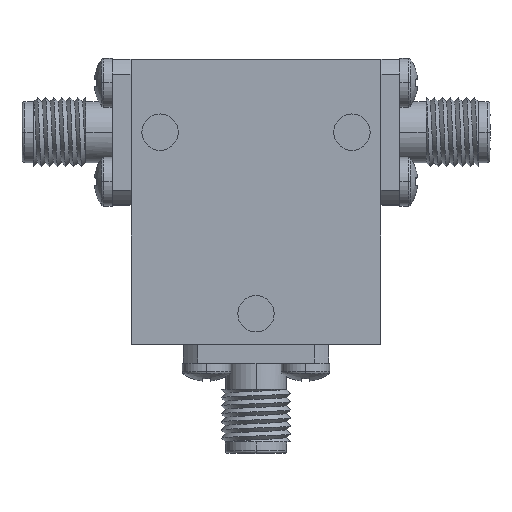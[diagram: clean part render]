
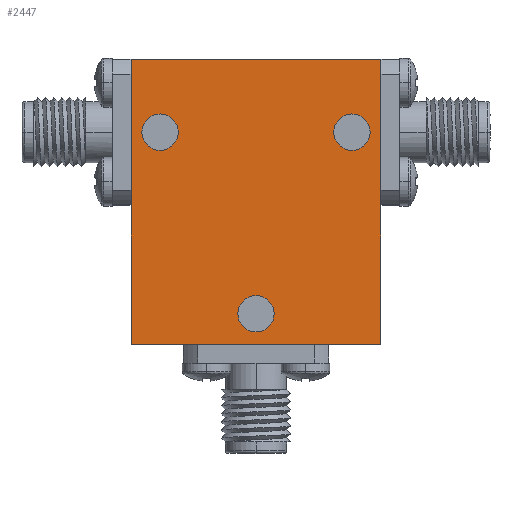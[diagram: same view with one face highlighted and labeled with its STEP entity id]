
A CAD part, top view. The second image highlights one B-rep face of the part: STEP entity #2447.
In plain terms, the highlighted planar face has unit normal (0, 0, 1).
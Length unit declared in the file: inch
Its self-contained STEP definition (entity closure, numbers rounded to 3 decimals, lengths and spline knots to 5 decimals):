
#35 = EDGE_CURVE ( 'NONE', #85, #42, #1385, .T. ) ;
#42 = VERTEX_POINT ( 'NONE', #937 ) ;
#85 = VERTEX_POINT ( 'NONE', #3014 ) ;
#129 = PLANE ( 'NONE',  #3713 ) ;
#284 = EDGE_CURVE ( 'NONE', #1965, #4113, #3239, .T. ) ;
#306 = CARTESIAN_POINT ( 'NONE',  ( -0.33, 0.24, 0.25 ) ) ;
#384 = VERTEX_POINT ( 'NONE', #3981 ) ;
#403 = ORIENTED_EDGE ( 'NONE', *, *, #1080, .T. ) ;
#461 = CARTESIAN_POINT ( 'NONE',  ( -0.43, -0.49, 0.25 ) ) ;
#498 = EDGE_LOOP ( 'NONE', ( #1277, #1806 ) ) ;
#516 = FACE_BOUND ( 'NONE', #605, .T. ) ;
#551 = ORIENTED_EDGE ( 'NONE', *, *, #2665, .T. ) ;
#602 = DIRECTION ( 'NONE',  ( 1., 0., 0. ) ) ;
#605 = EDGE_LOOP ( 'NONE', ( #2039, #1210 ) ) ;
#621 = CIRCLE ( 'NONE', #1975, 0.0625 ) ;
#643 = EDGE_CURVE ( 'NONE', #42, #85, #621, .T. ) ;
#662 = VERTEX_POINT ( 'NONE', #1240 ) ;
#705 = CARTESIAN_POINT ( 'NONE',  ( 0.43, 0.49, 0.25 ) ) ;
#766 = FACE_BOUND ( 'NONE', #2362, .T. ) ;
#768 = VECTOR ( 'NONE', #2016, 39.37008 ) ;
#781 = CARTESIAN_POINT ( 'NONE',  ( -0.43, 0.49, 0.25 ) ) ;
#826 = DIRECTION ( 'NONE',  ( 0., -1., 0. ) ) ;
#870 = CIRCLE ( 'NONE', #1844, 0.0625 ) ;
#937 = CARTESIAN_POINT ( 'NONE',  ( -0.0625, -0.385, 0.25 ) ) ;
#942 = DIRECTION ( 'NONE',  ( 1., 0., 0. ) ) ;
#1080 = EDGE_CURVE ( 'NONE', #4113, #1183, #2255, .T. ) ;
#1110 = DIRECTION ( 'NONE',  ( 1., 0., 0. ) ) ;
#1154 = CARTESIAN_POINT ( 'NONE',  ( 0.3925, 0.24, 0.25 ) ) ;
#1183 = VERTEX_POINT ( 'NONE', #2586 ) ;
#1210 = ORIENTED_EDGE ( 'NONE', *, *, #3594, .F. ) ;
#1224 = CIRCLE ( 'NONE', #2437, 0.0625 ) ;
#1240 = CARTESIAN_POINT ( 'NONE',  ( -0.3925, 0.24, 0.25 ) ) ;
#1277 = ORIENTED_EDGE ( 'NONE', *, *, #35, .F. ) ;
#1294 = AXIS2_PLACEMENT_3D ( 'NONE', #3131, #3456, #3809 ) ;
#1308 = DIRECTION ( 'NONE',  ( 0., 0., 1. ) ) ;
#1332 = EDGE_CURVE ( 'NONE', #384, #2660, #1591, .T. ) ;
#1385 = CIRCLE ( 'NONE', #1772, 0.0625 ) ;
#1420 = FACE_OUTER_BOUND ( 'NONE', #2067, .T. ) ;
#1561 = DIRECTION ( 'NONE',  ( 0., 0., 1. ) ) ;
#1591 = CIRCLE ( 'NONE', #2833, 0.0625 ) ;
#1629 = ORIENTED_EDGE ( 'NONE', *, *, #3300, .T. ) ;
#1704 = DIRECTION ( 'NONE',  ( 0., 0., 1. ) ) ;
#1738 = DIRECTION ( 'NONE',  ( 1., 0., 0. ) ) ;
#1752 = CARTESIAN_POINT ( 'NONE',  ( 0., 0., 0.25 ) ) ;
#1771 = CARTESIAN_POINT ( 'NONE',  ( -0.43, -0.49, 0.25 ) ) ;
#1772 = AXIS2_PLACEMENT_3D ( 'NONE', #2526, #1561, #602 ) ;
#1806 = ORIENTED_EDGE ( 'NONE', *, *, #643, .F. ) ;
#1844 = AXIS2_PLACEMENT_3D ( 'NONE', #306, #3499, #942 ) ;
#1893 = LINE ( 'NONE', #1771, #3929 ) ;
#1941 = DIRECTION ( 'NONE',  ( 1., 0., 0. ) ) ;
#1965 = VERTEX_POINT ( 'NONE', #2141 ) ;
#1975 = AXIS2_PLACEMENT_3D ( 'NONE', #4140, #3168, #1941 ) ;
#1993 = VERTEX_POINT ( 'NONE', #2124 ) ;
#2016 = DIRECTION ( 'NONE',  ( 0., 1., 0. ) ) ;
#2039 = ORIENTED_EDGE ( 'NONE', *, *, #2965, .F. ) ;
#2067 = EDGE_LOOP ( 'NONE', ( #3964, #403, #551, #1629 ) ) ;
#2079 = VECTOR ( 'NONE', #826, 39.37008 ) ;
#2124 = CARTESIAN_POINT ( 'NONE',  ( -0.2675, 0.24, 0.25 ) ) ;
#2133 = CARTESIAN_POINT ( 'NONE',  ( 0.43, 0.49, 0.25 ) ) ;
#2141 = CARTESIAN_POINT ( 'NONE',  ( 0.43, -0.49, 0.25 ) ) ;
#2255 = LINE ( 'NONE', #2606, #2752 ) ;
#2287 = EDGE_CURVE ( 'NONE', #2660, #384, #1224, .T. ) ;
#2362 = EDGE_LOOP ( 'NONE', ( #3478, #2978 ) ) ;
#2437 = AXIS2_PLACEMENT_3D ( 'NONE', #2611, #1308, #2931 ) ;
#2447 = ADVANCED_FACE ( 'NONE', ( #766, #3928, #516, #1420 ), #129, .T. ) ;
#2526 = CARTESIAN_POINT ( 'NONE',  ( 0., -0.385, 0.25 ) ) ;
#2586 = CARTESIAN_POINT ( 'NONE',  ( -0.43, 0.49, 0.25 ) ) ;
#2606 = CARTESIAN_POINT ( 'NONE',  ( -0.43, 0.49, 0.25 ) ) ;
#2611 = CARTESIAN_POINT ( 'NONE',  ( 0.33, 0.24, 0.25 ) ) ;
#2660 = VERTEX_POINT ( 'NONE', #1154 ) ;
#2665 = EDGE_CURVE ( 'NONE', #1183, #4001, #3036, .T. ) ;
#2740 = CIRCLE ( 'NONE', #1294, 0.0625 ) ;
#2752 = VECTOR ( 'NONE', #2933, 39.37008 ) ;
#2833 = AXIS2_PLACEMENT_3D ( 'NONE', #3608, #1704, #3934 ) ;
#2931 = DIRECTION ( 'NONE',  ( 1., 0., 0. ) ) ;
#2933 = DIRECTION ( 'NONE',  ( -1., 0., 0. ) ) ;
#2965 = EDGE_CURVE ( 'NONE', #1993, #662, #870, .T. ) ;
#2978 = ORIENTED_EDGE ( 'NONE', *, *, #1332, .F. ) ;
#3014 = CARTESIAN_POINT ( 'NONE',  ( 0.0625, -0.385, 0.25 ) ) ;
#3036 = LINE ( 'NONE', #781, #2079 ) ;
#3131 = CARTESIAN_POINT ( 'NONE',  ( -0.33, 0.24, 0.25 ) ) ;
#3168 = DIRECTION ( 'NONE',  ( 0., 0., 1. ) ) ;
#3239 = LINE ( 'NONE', #705, #768 ) ;
#3300 = EDGE_CURVE ( 'NONE', #4001, #1965, #1893, .T. ) ;
#3329 = DIRECTION ( 'NONE',  ( 0., 0., 1. ) ) ;
#3456 = DIRECTION ( 'NONE',  ( 0., 0., 1. ) ) ;
#3478 = ORIENTED_EDGE ( 'NONE', *, *, #2287, .F. ) ;
#3499 = DIRECTION ( 'NONE',  ( 0., 0., 1. ) ) ;
#3594 = EDGE_CURVE ( 'NONE', #662, #1993, #2740, .T. ) ;
#3608 = CARTESIAN_POINT ( 'NONE',  ( 0.33, 0.24, 0.25 ) ) ;
#3713 = AXIS2_PLACEMENT_3D ( 'NONE', #1752, #3329, #1738 ) ;
#3809 = DIRECTION ( 'NONE',  ( 1., 0., 0. ) ) ;
#3928 = FACE_BOUND ( 'NONE', #498, .T. ) ;
#3929 = VECTOR ( 'NONE', #1110, 39.37008 ) ;
#3934 = DIRECTION ( 'NONE',  ( 1., 0., 0. ) ) ;
#3964 = ORIENTED_EDGE ( 'NONE', *, *, #284, .T. ) ;
#3981 = CARTESIAN_POINT ( 'NONE',  ( 0.2675, 0.24, 0.25 ) ) ;
#4001 = VERTEX_POINT ( 'NONE', #461 ) ;
#4113 = VERTEX_POINT ( 'NONE', #2133 ) ;
#4140 = CARTESIAN_POINT ( 'NONE',  ( 0., -0.385, 0.25 ) ) ;
